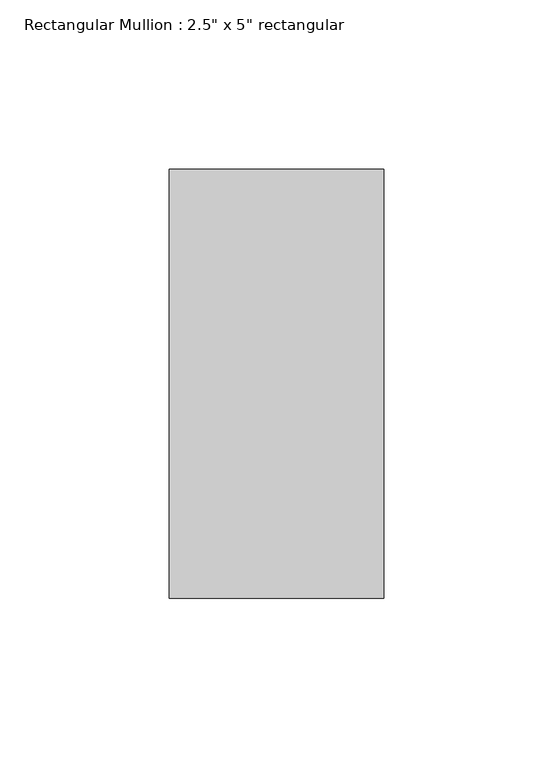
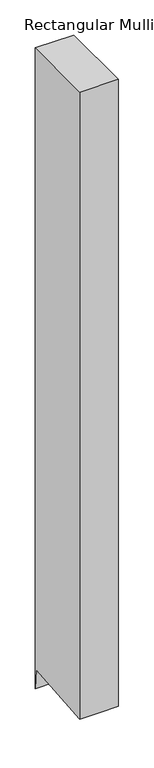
"""IFC4 building model written with IfcOpenShell, lengths in millimetres: member geometry."""

from ifc_helpers import new_model, si_unit, origin, place, context, project, spatial, faceted_brep, source, transform, mapped, element, save


def member_2e3765b8(model_context):
    return source(origin(), model_context, "Body", "Brep", [
        faceted_brep([(31.75, 63.5, 0.0), (-31.75, 63.5, 0.0), (-31.75, -63.5, 0.0), (31.75, -63.5, 0.0), (31.75, 63.5, -1112.9394571), (0.0, 63.5, -1112.9394571), (-31.75, 63.5, -1112.9394571), (-31.75, 60.6612211, -1078.6804904), (-31.75, -63.5, -1088.9687826), (0.0, -63.5, -1088.9687826), (31.75, -63.5, -1088.9687826), (31.75, 60.6612211, -1078.6804904), (0.0, 60.6612211, -1078.6804904)], [[[0, 1, 2, 3]], [[1, 0, 4, 5, 6]], [[2, 1, 6, 7, 8]], [[3, 2, 8, 9, 10]], [[0, 3, 10, 11, 4]], [[4, 11, 12, 5]], [[11, 10, 9, 12]], [[9, 8, 7, 12]], [[7, 6, 5, 12]]]),
    ])


if __name__ == "__main__":
    model = new_model("IFC4")
    model_context = context("Model", 3, world=origin())
    ifc_project = project(units=[si_unit("LENGTHUNIT", "METRE", prefix="MILLI")], contexts=[model_context])
    site = spatial("IfcSite", under=ifc_project)
    building = spatial("IfcBuilding", under=site)
    placement = place(None, origin())
    member_shape = member_2e3765b8(model_context)
    element("IfcMember", 1, ObjectType="Rectangular Mullion : 2.5\" x 5\" rectangular", at=placement, inside=building, context=model_context, shape_type="MappedRepresentation", body=[
        mapped(member_shape, transform((0.0, 0.0, 0.0), x_axis=(1.0, 0.0, 0.0), y_axis=(0.0, 1.0, 0.0), z_axis=(0.0, 0.0, 1.0))),
    ])
    save(model, "model.ifc")
